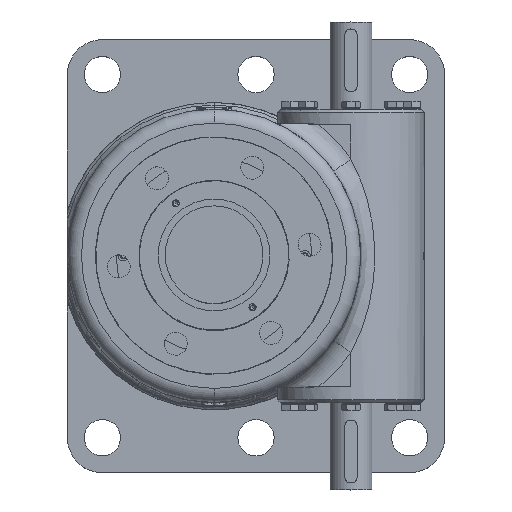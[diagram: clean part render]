
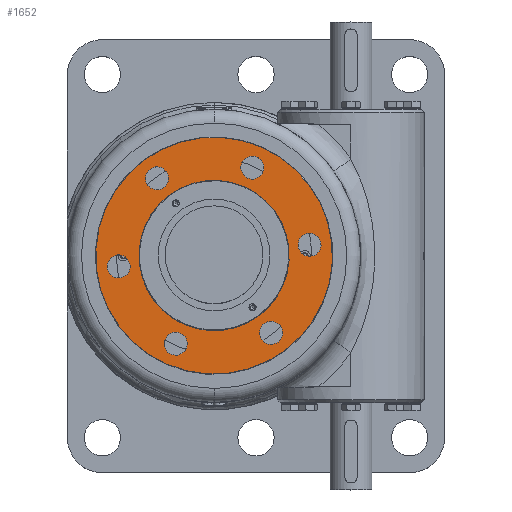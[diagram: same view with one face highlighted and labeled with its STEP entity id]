
A CAD part, top view. The second image highlights one B-rep face of the part: STEP entity #1652.
In plain terms, the highlighted planar face has unit normal (0, 0, 1).
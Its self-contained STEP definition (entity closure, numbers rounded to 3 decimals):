
#1652=ADVANCED_FACE('',(#4797,#4798,#4799,#4800,#4801,#4802,#4803,#4804),#4805,.F.);
#4797=FACE_OUTER_BOUND('',#16736,.T.);
#4798=FACE_BOUND('',#16737,.T.);
#4799=FACE_BOUND('',#16738,.T.);
#4800=FACE_BOUND('',#16739,.T.);
#4801=FACE_BOUND('',#16740,.T.);
#4802=FACE_BOUND('',#16741,.T.);
#4803=FACE_BOUND('',#16742,.T.);
#4804=FACE_BOUND('',#16743,.T.);
#4805=PLANE('',#16744);
#16736=EDGE_LOOP('',(#27860,#27861));
#16737=EDGE_LOOP('',(#27862,#27863));
#16738=EDGE_LOOP('',(#27864,#27865));
#16739=EDGE_LOOP('',(#27866,#27867));
#16740=EDGE_LOOP('',(#27868,#27869));
#16741=EDGE_LOOP('',(#27870,#27871));
#16742=EDGE_LOOP('',(#27872,#27873));
#16743=EDGE_LOOP('',(#27874,#27875));
#16744=AXIS2_PLACEMENT_3D('',#27876,#27877,#27878);
#27860=ORIENTED_EDGE('',*,*,#31652,.F.);
#27861=ORIENTED_EDGE('',*,*,#31560,.F.);
#27862=ORIENTED_EDGE('',*,*,#31527,.F.);
#27863=ORIENTED_EDGE('',*,*,#31653,.F.);
#27864=ORIENTED_EDGE('',*,*,#31529,.T.);
#27865=ORIENTED_EDGE('',*,*,#31654,.T.);
#27866=ORIENTED_EDGE('',*,*,#31533,.T.);
#27867=ORIENTED_EDGE('',*,*,#31655,.T.);
#27868=ORIENTED_EDGE('',*,*,#31537,.T.);
#27869=ORIENTED_EDGE('',*,*,#31656,.T.);
#27870=ORIENTED_EDGE('',*,*,#31541,.T.);
#27871=ORIENTED_EDGE('',*,*,#31657,.T.);
#27872=ORIENTED_EDGE('',*,*,#31545,.T.);
#27873=ORIENTED_EDGE('',*,*,#31658,.T.);
#27874=ORIENTED_EDGE('',*,*,#31549,.T.);
#27875=ORIENTED_EDGE('',*,*,#31659,.T.);
#27876=CARTESIAN_POINT('',(0.,0.,483.));
#27877=DIRECTION('',(0.0,0.0,-1.0));
#27878=DIRECTION('',(0.707,-0.707,0.0));
#31527=EDGE_CURVE('',#37376,#37372,#37378,.T.);
#31529=EDGE_CURVE('',#37382,#37379,#37383,.T.);
#31533=EDGE_CURVE('',#37390,#37387,#37391,.T.);
#31537=EDGE_CURVE('',#37398,#37395,#37399,.T.);
#31541=EDGE_CURVE('',#37406,#37403,#37407,.T.);
#31545=EDGE_CURVE('',#37414,#37411,#37415,.T.);
#31549=EDGE_CURVE('',#37422,#37419,#37423,.T.);
#31560=EDGE_CURVE('',#37440,#37443,#37444,.T.);
#31652=EDGE_CURVE('',#37443,#37440,#37591,.T.);
#31653=EDGE_CURVE('',#37372,#37376,#37592,.T.);
#31654=EDGE_CURVE('',#37379,#37382,#37593,.T.);
#31655=EDGE_CURVE('',#37387,#37390,#37594,.T.);
#31656=EDGE_CURVE('',#37395,#37398,#37595,.T.);
#31657=EDGE_CURVE('',#37403,#37406,#37596,.T.);
#31658=EDGE_CURVE('',#37411,#37414,#37597,.T.);
#31659=EDGE_CURVE('',#37419,#37422,#37598,.T.);
#37372=VERTEX_POINT('',#56236);
#37376=VERTEX_POINT('',#56241);
#37378=CIRCLE('',#56244,107.5);
#37379=VERTEX_POINT('',#56245);
#37382=VERTEX_POINT('',#56249);
#37383=CIRCLE('',#56250,16.5);
#37387=VERTEX_POINT('',#56255);
#37390=VERTEX_POINT('',#56259);
#37391=CIRCLE('',#56260,16.5);
#37395=VERTEX_POINT('',#56265);
#37398=VERTEX_POINT('',#56269);
#37399=CIRCLE('',#56270,16.5);
#37403=VERTEX_POINT('',#56275);
#37406=VERTEX_POINT('',#56279);
#37407=CIRCLE('',#56280,16.5);
#37411=VERTEX_POINT('',#56285);
#37414=VERTEX_POINT('',#56289);
#37415=CIRCLE('',#56290,16.5);
#37419=VERTEX_POINT('',#56295);
#37422=VERTEX_POINT('',#56299);
#37423=CIRCLE('',#56300,16.5);
#37440=VERTEX_POINT('',#56322);
#37443=VERTEX_POINT('',#56326);
#37444=CIRCLE('',#56327,169.5);
#37591=CIRCLE('',#56649,169.5);
#37592=CIRCLE('',#56650,107.5);
#37593=CIRCLE('',#56651,16.5);
#37594=CIRCLE('',#56652,16.5);
#37595=CIRCLE('',#56653,16.5);
#37596=CIRCLE('',#56654,16.5);
#37597=CIRCLE('',#56655,16.5);
#37598=CIRCLE('',#56656,16.5);
#56236=CARTESIAN_POINT('',(86.442,63.907,483.));
#56241=CARTESIAN_POINT('',(-86.442,-63.907,483.));
#56244=AXIS2_PLACEMENT_3D('',#62625,#62626,#62627);
#56245=CARTESIAN_POINT('',(68.473,-120.374,483.));
#56249=CARTESIAN_POINT('',(95.009,-100.756,483.));
#56250=AXIS2_PLACEMENT_3D('',#62629,#62630,#62631);
#56255=CARTESIAN_POINT('',(-70.01,-119.487,483.));
#56259=CARTESIAN_POINT('',(-39.753,-132.658,483.));
#56260=AXIS2_PLACEMENT_3D('',#62637,#62638,#62639);
#56265=CARTESIAN_POINT('',(138.484,-0.887,483.));
#56269=CARTESIAN_POINT('',(134.762,31.902,483.));
#56270=AXIS2_PLACEMENT_3D('',#62645,#62646,#62647);
#56275=CARTESIAN_POINT('',(70.01,119.487,483.));
#56279=CARTESIAN_POINT('',(39.753,132.658,483.));
#56280=AXIS2_PLACEMENT_3D('',#62653,#62654,#62655);
#56285=CARTESIAN_POINT('',(-68.473,120.374,483.));
#56289=CARTESIAN_POINT('',(-95.009,100.756,483.));
#56290=AXIS2_PLACEMENT_3D('',#62661,#62662,#62663);
#56295=CARTESIAN_POINT('',(-138.484,0.887,483.));
#56299=CARTESIAN_POINT('',(-134.762,-31.902,483.));
#56300=AXIS2_PLACEMENT_3D('',#62669,#62670,#62671);
#56322=CARTESIAN_POINT('',(136.297,100.764,483.));
#56326=CARTESIAN_POINT('',(-136.297,-100.764,483.));
#56327=AXIS2_PLACEMENT_3D('',#62690,#62691,#62692);
#56649=AXIS2_PLACEMENT_3D('',#62832,#62833,#62834);
#56650=AXIS2_PLACEMENT_3D('',#62835,#62836,#62837);
#56651=AXIS2_PLACEMENT_3D('',#62838,#62839,#62840);
#56652=AXIS2_PLACEMENT_3D('',#62841,#62842,#62843);
#56653=AXIS2_PLACEMENT_3D('',#62844,#62845,#62846);
#56654=AXIS2_PLACEMENT_3D('',#62847,#62848,#62849);
#56655=AXIS2_PLACEMENT_3D('',#62850,#62851,#62852);
#56656=AXIS2_PLACEMENT_3D('',#62853,#62854,#62855);
#62625=CARTESIAN_POINT('',(0.,0.,483.));
#62626=DIRECTION('',(0.0,-0.0,1.0));
#62627=DIRECTION('',(0.804,0.594,0.0));
#62629=CARTESIAN_POINT('',(81.741,-110.565,483.));
#62630=DIRECTION('',(-0.0,0.0,-1.0));
#62631=DIRECTION('',(-0.804,-0.594,0.0));
#62637=CARTESIAN_POINT('',(-54.882,-126.072,483.));
#62638=DIRECTION('',(0.0,0.0,-1.0));
#62639=DIRECTION('',(-0.917,0.399,0.0));
#62645=CARTESIAN_POINT('',(136.623,15.507,483.));
#62646=DIRECTION('',(0.0,0.0,-1.0));
#62647=DIRECTION('',(0.113,-0.994,0.0));
#62653=CARTESIAN_POINT('',(54.882,126.072,483.));
#62654=DIRECTION('',(0.0,0.0,-1.0));
#62655=DIRECTION('',(0.917,-0.399,0.0));
#62661=CARTESIAN_POINT('',(-81.741,110.565,483.));
#62662=DIRECTION('',(0.0,0.0,-1.0));
#62663=DIRECTION('',(0.804,0.594,0.0));
#62669=CARTESIAN_POINT('',(-136.623,-15.507,483.));
#62670=DIRECTION('',(0.0,0.0,-1.0));
#62671=DIRECTION('',(-0.113,0.994,0.0));
#62690=CARTESIAN_POINT('',(0.,0.,483.));
#62691=DIRECTION('',(0.0,0.0,-1.0));
#62692=DIRECTION('',(0.804,0.594,0.0));
#62832=CARTESIAN_POINT('',(0.,0.,483.));
#62833=DIRECTION('',(0.0,0.0,-1.0));
#62834=DIRECTION('',(0.804,0.594,0.0));
#62835=CARTESIAN_POINT('',(0.,0.,483.));
#62836=DIRECTION('',(0.0,-0.0,1.0));
#62837=DIRECTION('',(0.804,0.594,0.0));
#62838=CARTESIAN_POINT('',(81.741,-110.565,483.));
#62839=DIRECTION('',(-0.0,0.0,-1.0));
#62840=DIRECTION('',(-0.804,-0.594,0.0));
#62841=CARTESIAN_POINT('',(-54.882,-126.072,483.));
#62842=DIRECTION('',(0.0,0.0,-1.0));
#62843=DIRECTION('',(-0.917,0.399,0.0));
#62844=CARTESIAN_POINT('',(136.623,15.507,483.));
#62845=DIRECTION('',(0.0,0.0,-1.0));
#62846=DIRECTION('',(0.113,-0.994,0.0));
#62847=CARTESIAN_POINT('',(54.882,126.072,483.));
#62848=DIRECTION('',(0.0,0.0,-1.0));
#62849=DIRECTION('',(0.917,-0.399,0.0));
#62850=CARTESIAN_POINT('',(-81.741,110.565,483.));
#62851=DIRECTION('',(0.0,0.0,-1.0));
#62852=DIRECTION('',(0.804,0.594,0.0));
#62853=CARTESIAN_POINT('',(-136.623,-15.507,483.));
#62854=DIRECTION('',(0.0,0.0,-1.0));
#62855=DIRECTION('',(-0.113,0.994,0.0));
